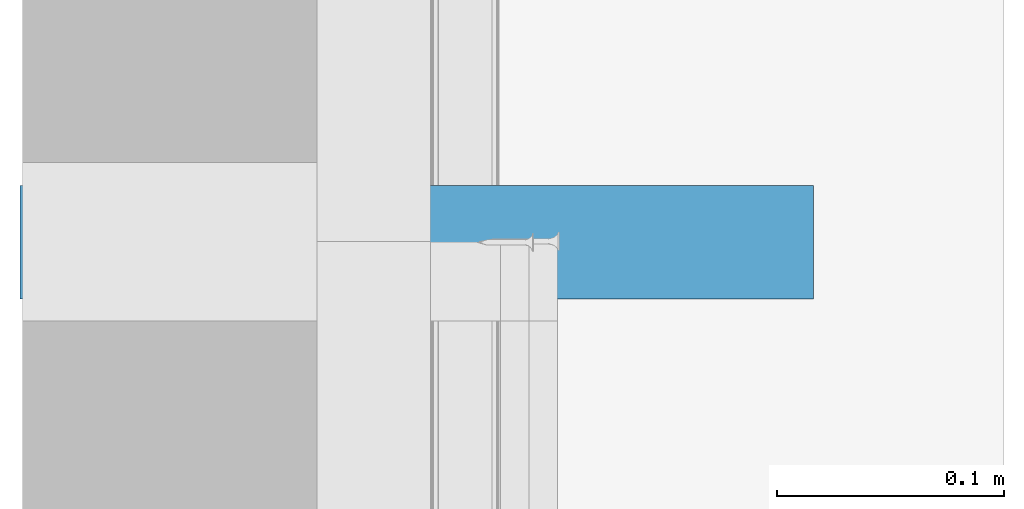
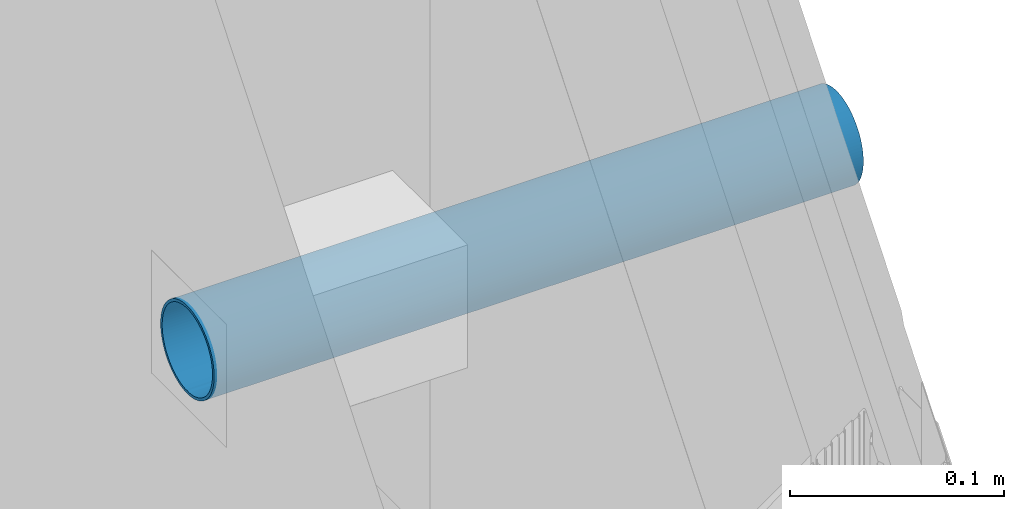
# One storey, part 10 of 61: 1 wall.
"""IFC2X3 building model written with IfcOpenShell, lengths in millimetres."""

from ifc_helpers import new_model, si_unit, frame, origin_with_axes, place, context, subcontext, project, spatial, faceted_brep, material, type_object, element, save


model = new_model("IFC2X3")

# Units and contexts
model_context = context("Model", 3, world=origin_with_axes())
body_context = subcontext(model_context, "Body", "Model", "MODEL_VIEW")
ifc_project = project(units=[si_unit("LENGTHUNIT", "METRE", prefix="MILLI"), si_unit("AREAUNIT", "SQUARE_METRE"), si_unit("VOLUMEUNIT", "CUBIC_METRE")], contexts=[model_context])

# Site, building, storey
site_placement = place(None, frame((2152.1410261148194, -2015.0250894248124, 57.61556563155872), z_axis=(0.0, 0.0, 1.0), x_axis=(-1.1102230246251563e-16, 1.0, 0.0)))
site = spatial("IfcSite", under=ifc_project, at=site_placement, Name="Default Site", CompositionType="ELEMENT")
building_placement = place(site_placement, origin_with_axes())
building = spatial("IfcBuilding", under=site, at=building_placement, Name="Default Building", CompositionType="ELEMENT")
storey_placement = place(building_placement, origin_with_axes())
storey = spatial("IfcBuildingStorey", under=building, at=storey_placement, Name="Default Building Storey", CompositionType="ELEMENT", Elevation=57.61556563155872)

# Wall
ifc_material = material(Name="M00_Soft_Cloud")
wall_type = type_object("IfcWallType", Name="Przewód instalacyjny - okrągły", PredefinedType="NOTDEFINED")
wall_placement = place(storey_placement, frame((3087.882749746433, 2148.2191285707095, 509.2191490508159), z_axis=(0.0, 0.0, 1.0), x_axis=(1.0, 0.0, 0.0)))
element("IfcWall", 1, at=wall_placement, inside=storey, type_object=wall_type, material=ifc_material, Name="Przewód instalacyjny - okrągły", context=body_context, shape_type="Brep", body=[
    faceted_brep([(49.84632578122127, -345.0390512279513, 25.2052880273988), (51.416081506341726, -345.0390512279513, 25.05333141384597), (52.97965642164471, -345.0390512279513, 25.201057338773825), (54.530870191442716, -345.0390512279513, 25.446669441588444), (56.0636008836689, -345.0390512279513, 25.789198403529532), (57.571799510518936, -345.0390512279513, 26.227292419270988), (59.04951390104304, -345.0390512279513, 26.759222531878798), (60.490912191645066, -345.0390512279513, 27.382889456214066), (61.89030584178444, -345.0390512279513, 28.09583186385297), (63.242172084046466, -345.0390512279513, 28.89523609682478), (64.54117571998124, -345.0390512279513, 29.777947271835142), (65.7821901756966, -345.0390512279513, 30.74048173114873), (66.96031773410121, -345.0390512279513, 31.779040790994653), (68.0709088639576, -345.0390512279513, 32.889525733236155), (69.1095805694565, -345.0390512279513, 34.0675539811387), (70.07223368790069, -345.0390512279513, 35.30847639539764), (70.95506906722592, -345.0390512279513, 36.607395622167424), (71.7546025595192, -345.0390512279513, 37.95918542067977), (72.46767877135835, -345.0390512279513, 39.358510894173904), (73.0914835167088, -345.0390512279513, 40.799849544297), (73.62355492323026, -345.0390512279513, 42.277513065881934), (74.0617931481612, -345.0390512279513, 43.78566979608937), (74.40446866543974, -345.0390512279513, 45.31836772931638), (74.65022909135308, -345.0390512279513, 46.86955800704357), (74.79810452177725, -345.0390512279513, 48.433118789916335), (74.847511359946, -345.0390512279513, 50.002879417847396), (74.79825461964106, -345.0390512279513, 51.57264476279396), (74.65052869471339, -345.0390512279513, 53.136219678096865), (74.40491659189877, -345.0390512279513, 54.687433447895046), (74.0623876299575, -345.0390512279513, 56.22016414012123), (73.62429361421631, -345.0390512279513, 57.72836276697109), (73.0923635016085, -345.0390512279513, 59.20607715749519), (72.46869657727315, -345.0390512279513, 60.64747544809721), (71.75575416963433, -345.0390512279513, 62.04686909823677), (70.95634993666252, -345.0390512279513, 63.398735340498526), (70.07363876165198, -345.0390512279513, 64.69773897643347), (69.11110430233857, -345.0390512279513, 65.93875343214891), (68.07254524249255, -345.0390512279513, 67.11688099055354), (66.96206030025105, -345.0390512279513, 68.22747212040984), (65.78403205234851, -345.0390512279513, 69.26614382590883), (64.54310963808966, -345.0390512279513, 70.22879694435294), (63.24419041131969, -345.0390512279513, 71.11163232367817), (61.892400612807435, -345.0390512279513, 71.91116581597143), (60.493075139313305, -345.0390512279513, 72.62424202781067), (59.05173648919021, -345.0390512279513, 73.2480467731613), (57.574072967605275, -345.0390512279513, 73.78011817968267), (56.06591623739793, -345.0390512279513, 74.21835640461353), (54.533218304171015, -345.0390512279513, 74.56103192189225), (52.982028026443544, -345.0390512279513, 74.80679234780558), (51.41846724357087, -345.0390512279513, 74.95466777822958), (49.84870661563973, -345.0390512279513, 75.00407461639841), (48.27894127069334, -345.0390512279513, 74.95481787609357), (46.71536635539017, -345.0390512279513, 74.8070919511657), (45.16415258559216, -345.0390512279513, 74.56147984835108), (43.63142189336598, -345.0390512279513, 74.2189508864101), (42.12322326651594, -345.0390512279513, 73.78085687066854), (40.64550887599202, -345.0390512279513, 73.24892675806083), (39.20411058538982, -345.0390512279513, 72.62525983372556), (37.80471693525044, -345.0390512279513, 71.91231742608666), (36.45285069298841, -345.0390512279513, 71.11291319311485), (35.153847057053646, -345.0390512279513, 70.23020201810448), (33.91283260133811, -345.0390512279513, 69.26766755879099), (32.734705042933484, -345.0390512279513, 68.22910849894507), (31.62411391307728, -345.0390512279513, 67.11862355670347), (30.58544220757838, -345.0390512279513, 65.94059530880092), (29.622789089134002, -345.0390512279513, 64.69967289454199), (28.739953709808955, -345.0390512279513, 63.4007536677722), (27.940420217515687, -345.0390512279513, 62.04896386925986), (27.227344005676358, -345.0390512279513, 60.64963839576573), (26.603539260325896, -345.0390512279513, 59.208299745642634), (26.071467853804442, -345.0390512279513, 57.73063622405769), (25.633229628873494, -345.0390512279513, 56.22247949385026), (25.290554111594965, -345.0390512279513, 54.68978156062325), (25.044793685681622, -345.0390512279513, 53.13859128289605), (24.896918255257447, -345.0390512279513, 51.575030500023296), (24.84751141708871, -345.0390512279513, 50.00526987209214), (24.896768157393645, -345.0390512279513, 48.43550452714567), (25.044494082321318, -345.0390512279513, 46.871929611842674), (25.290106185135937, -345.0390512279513, 45.32071584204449), (25.632635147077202, -345.0390512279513, 43.78798514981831), (26.07072916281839, -345.0390512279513, 42.27978652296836), (26.6026592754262, -345.0390512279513, 40.802072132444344), (27.22632619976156, -345.0390512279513, 39.360673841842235), (27.93926860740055, -345.0390512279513, 37.96128019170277), (28.738672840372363, -345.0390512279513, 36.60941394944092), (29.621384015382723, -345.0390512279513, 35.310410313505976), (30.58391847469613, -345.0390512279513, 34.069395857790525), (31.622477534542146, -345.0390512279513, 32.89126829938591), (32.73296247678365, -345.0390512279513, 31.780677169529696), (33.910990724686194, -345.0390512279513, 30.742005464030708), (35.15191313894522, -345.0390512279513, 29.77935234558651), (36.45083236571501, -345.0390512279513, 28.89651696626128), (37.802622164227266, -345.0390512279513, 28.096983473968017), (39.201947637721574, -345.0390512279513, 27.383907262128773), (40.64328628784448, -345.0390512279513, 26.760102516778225), (42.120949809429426, -345.0390512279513, 26.22803111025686), (43.62910653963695, -345.0390512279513, 25.789792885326), (45.161804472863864, -345.0390512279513, 25.44711736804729), (46.71299475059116, -345.0390512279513, 25.201356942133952), (48.27655553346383, -345.0390512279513, 25.053481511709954), (48.274965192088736, -345.0390512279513, 26.56032545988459), (46.90115859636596, -345.0390512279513, 26.69025468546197), (45.44308568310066, -345.0390512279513, 26.921262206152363), (44.002395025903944, -345.0390512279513, 27.243367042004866), (42.58477237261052, -345.0390512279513, 27.655297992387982), (41.19581243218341, -345.0390512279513, 28.155429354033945), (39.8409967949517, -345.0390512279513, 28.74178733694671), (38.52567229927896, -345.0390512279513, 29.412057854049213), (37.255029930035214, -345.0390512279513, 30.16359565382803), (36.034084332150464, -345.0390512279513, 30.993434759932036), (34.86765402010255, -345.0390512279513, 31.89830017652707), (33.76034236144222, -345.0390512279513, 32.87462081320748), (32.716519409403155, -345.0390512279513, 33.91854357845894), (31.740304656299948, -345.0390512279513, 35.02594858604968), (30.835550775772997, -345.0390512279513, 36.19246541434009), (30.00582841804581, -345.0390512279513, 37.413490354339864), (29.254412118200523, -345.0390512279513, 38.68420457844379), (28.584267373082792, -345.0390512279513, 39.999593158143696), (27.998038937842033, -345.0390512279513, 41.35446485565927), (27.498040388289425, -345.0390512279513, 42.7434726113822), (27.086244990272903, -345.0390512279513, 44.16113464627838), (26.76427791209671, -345.0390512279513, 45.6018560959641), (26.53340981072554, -345.0390512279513, 47.05995109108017), (26.39455181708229, -345.0390512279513, 48.52966519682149), (26.348251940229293, -345.0390512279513, 50.005198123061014), (26.394692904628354, -345.0390512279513, 51.480726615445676), (26.533691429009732, -345.0390512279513, 52.95042743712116), (26.764698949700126, -345.0390512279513, 54.40850035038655), (27.08680378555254, -345.0390512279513, 55.84919100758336), (27.498734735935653, -345.0390512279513, 57.266813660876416), (27.99886609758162, -345.0390512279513, 58.65577360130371), (28.58522408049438, -345.0390512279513, 60.01058923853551), (29.255494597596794, -345.0390512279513, 61.32591373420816), (30.007032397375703, -345.0390512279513, 62.59655610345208), (30.83687150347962, -345.0390512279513, 63.81750170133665), (31.741736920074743, -345.0390512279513, 64.98393201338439), (32.71805755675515, -345.0390512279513, 66.0912436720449), (33.76198032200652, -345.0390512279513, 67.13506662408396), (34.86938532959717, -345.0390512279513, 68.11128137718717), (36.035902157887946, -345.0390512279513, 69.01603525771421), (37.256927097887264, -345.0390512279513, 69.84575761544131), (38.52764132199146, -345.0390512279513, 70.59717391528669), (39.84302990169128, -345.0390512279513, 71.26731866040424), (41.19790159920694, -345.0390512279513, 71.85354709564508), (42.586909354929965, -345.0390512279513, 72.3535456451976), (44.00457138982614, -345.0390512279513, 72.7653410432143), (45.44529283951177, -345.0390512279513, 73.08730812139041), (46.90338783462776, -345.0390512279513, 73.3181762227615), (48.37310194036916, -345.0390512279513, 73.45703421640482), (49.8486348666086, -345.0390512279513, 73.50333409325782), (51.324163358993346, -345.0390512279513, 73.45689312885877), (52.79386418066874, -345.0390512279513, 73.31789460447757), (54.25193709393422, -345.0390512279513, 73.08688708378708), (55.692627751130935, -345.0390512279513, 72.76478224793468), (57.110250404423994, -345.0390512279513, 72.35285129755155), (58.49921034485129, -345.0390512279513, 71.8527199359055), (59.85402598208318, -345.0390512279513, 71.26636195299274), (61.16935047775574, -345.0390512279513, 70.59609143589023), (62.43999284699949, -345.0390512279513, 69.84455363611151), (63.660938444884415, -345.0390512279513, 69.01471453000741), (64.82736875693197, -345.0390512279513, 68.10984911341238), (65.93468041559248, -345.0390512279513, 67.13352847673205), (66.97850336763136, -345.0390512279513, 66.0896057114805), (67.95471812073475, -345.0390512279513, 64.98220070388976), (68.85947200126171, -345.0390512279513, 63.81568387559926), (69.68919435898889, -345.0390512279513, 62.59465893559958), (70.44061065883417, -345.0390512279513, 61.32394471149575), (71.11075540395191, -345.0390512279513, 60.00855613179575), (71.69698383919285, -345.0390512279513, 58.653684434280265), (72.19698238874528, -345.0390512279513, 57.26467667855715), (72.60877778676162, -345.0390512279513, 55.84701464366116), (72.93074486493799, -345.0390512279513, 54.406293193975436), (73.16161296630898, -345.0390512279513, 52.948198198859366), (73.3004709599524, -345.0390512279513, 51.47848409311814), (73.3467708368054, -345.0390512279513, 50.00295116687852), (73.30032987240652, -345.0390512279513, 48.52742267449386), (73.16133134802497, -345.0390512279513, 47.05772185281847), (72.93032382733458, -345.0390512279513, 45.59964893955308), (72.60821899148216, -345.0390512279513, 44.158958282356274), (72.19628804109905, -345.0390512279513, 42.741335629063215), (71.69615667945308, -345.0390512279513, 41.35237568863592), (71.1097986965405, -345.0390512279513, 39.99756005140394), (70.4395281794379, -345.0390512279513, 38.68223555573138), (69.68799037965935, -345.0390512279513, 37.411593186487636), (68.85815127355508, -345.0390512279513, 36.19064758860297), (67.95328585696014, -345.0390512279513, 35.02421727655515), (66.97696522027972, -345.0390512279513, 33.91690561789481), (65.93304245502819, -345.0390512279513, 32.87308266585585), (64.82563744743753, -345.0390512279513, 31.896867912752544), (63.65912061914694, -345.0390512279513, 30.992114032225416), (62.43809567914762, -345.0390512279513, 30.162391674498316), (61.16738145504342, -345.0390512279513, 29.410975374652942), (59.8519928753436, -345.0390512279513, 28.7408306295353), (58.49712117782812, -345.0390512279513, 28.15460219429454), (57.108113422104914, -345.0390512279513, 27.65460364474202), (55.690451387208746, -345.0390512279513, 27.242808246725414), (54.24972993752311, -345.0390512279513, 26.920841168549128), (52.791634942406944, -345.0390512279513, 26.689973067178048), (51.417815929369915, -345.0390512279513, 26.560175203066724), (49.846397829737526, -345.0390512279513, 26.712292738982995), (51.416081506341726, 4.921897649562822, 25.05333141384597), (49.84632578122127, 4.921897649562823, 25.2052880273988), (48.27655553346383, 4.921897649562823, 25.053481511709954), (46.71299475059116, 4.921897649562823, 25.201356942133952), (45.161804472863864, 4.9218976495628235, 25.44711736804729), (43.62910653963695, 4.9218976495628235, 25.789792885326), (42.120949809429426, 4.9218976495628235, 26.22803111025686), (40.64328628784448, 4.9218976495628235, 26.760102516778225), (39.201947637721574, 4.9218976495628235, 27.383907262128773), (37.802622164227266, 4.9218976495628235, 28.096983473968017), (36.45083236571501, 4.921897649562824, 28.89651696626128), (35.15191313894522, 4.921897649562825, 29.77935234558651), (33.910990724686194, 4.921897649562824, 30.742005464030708), (32.73296247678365, 4.921897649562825, 31.780677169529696), (31.622477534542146, 4.921897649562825, 32.89126829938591), (30.58391847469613, 4.921897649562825, 34.069395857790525), (29.621384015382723, 4.921897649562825, 35.310410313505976), (28.738672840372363, 4.921897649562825, 36.60941394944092), (27.93926860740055, 4.921897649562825, 37.96128019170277), (27.22632619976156, 4.921897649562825, 39.360673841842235), (26.6026592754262, 4.921897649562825, 40.802072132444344), (26.07072916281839, 4.921897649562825, 42.27978652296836), (25.632635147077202, 4.921897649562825, 43.78798514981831), (25.290106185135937, 4.921897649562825, 45.32071584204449), (25.044494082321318, 4.921897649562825, 46.871929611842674), (24.896768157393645, 4.921897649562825, 48.43550452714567), (24.84751141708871, 4.921897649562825, 50.00526987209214), (24.896918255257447, 4.921897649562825, 51.575030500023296), (25.044793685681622, 4.921897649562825, 53.13859128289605), (25.290554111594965, 4.921897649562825, 54.68978156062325), (25.633229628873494, 4.921897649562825, 56.22247949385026), (26.071467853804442, 4.921897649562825, 57.73063622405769), (26.603539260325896, 4.921897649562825, 59.208299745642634), (27.227344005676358, 4.921897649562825, 60.64963839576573), (27.940420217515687, 4.921897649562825, 62.04896386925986), (28.739953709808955, 4.921897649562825, 63.4007536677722), (29.622789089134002, 4.921897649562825, 64.69967289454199), (30.58544220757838, 4.921897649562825, 65.94059530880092), (31.62411391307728, 4.921897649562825, 67.11862355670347), (32.734705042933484, 4.921897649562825, 68.22910849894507), (33.91283260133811, 4.921897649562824, 69.26766755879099), (35.153847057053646, 4.921897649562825, 70.23020201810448), (36.45285069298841, 4.921897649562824, 71.11291319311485), (37.80471693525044, 4.9218976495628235, 71.91231742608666), (39.20411058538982, 4.9218976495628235, 72.62525983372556), (40.64550887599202, 4.9218976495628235, 73.24892675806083), (42.12322326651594, 4.9218976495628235, 73.78085687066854), (43.63142189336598, 4.9218976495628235, 74.2189508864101), (45.16415258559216, 4.9218976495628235, 74.56147984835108), (46.71536635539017, 4.921897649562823, 74.8070919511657), (48.27894127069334, 4.921897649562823, 74.95481787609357), (49.84870661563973, 4.921897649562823, 75.00407461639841), (51.41846724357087, 4.921897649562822, 74.95466777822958), (52.982028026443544, 4.921897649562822, 74.80679234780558), (54.533218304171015, 4.921897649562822, 74.56103192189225), (56.06591623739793, 4.921897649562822, 74.21835640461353), (57.574072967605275, 4.921897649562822, 73.78011817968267), (59.05173648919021, 4.921897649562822, 73.2480467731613), (60.493075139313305, 4.921897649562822, 72.62424202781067), (61.892400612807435, 4.921897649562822, 71.91116581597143), (63.24419041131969, 4.921897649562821, 71.11163232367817), (64.54310963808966, 4.921897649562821, 70.22879694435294), (65.78403205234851, 4.921897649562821, 69.26614382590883), (66.96206030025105, 4.921897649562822, 68.22747212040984), (68.07254524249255, 4.921897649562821, 67.11688099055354), (69.11110430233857, 4.921897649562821, 65.93875343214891), (70.07363876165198, 4.921897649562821, 64.69773897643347), (70.95634993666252, 4.92189764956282, 63.398735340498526), (71.75575416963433, 4.92189764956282, 62.04686909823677), (72.46869657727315, 4.92189764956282, 60.64747544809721), (73.0923635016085, 4.921897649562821, 59.20607715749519), (73.62429361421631, 4.92189764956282, 57.72836276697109), (74.0623876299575, 4.92189764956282, 56.22016414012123), (74.40491659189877, 4.92189764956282, 54.687433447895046), (74.65052869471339, 4.92189764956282, 53.136219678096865), (74.79825461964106, 4.92189764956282, 51.57264476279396), (74.847511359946, 4.92189764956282, 50.002879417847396), (74.79810452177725, 4.92189764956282, 48.433118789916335), (74.65022909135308, 4.92189764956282, 46.86955800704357), (74.40446866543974, 4.92189764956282, 45.31836772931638), (74.0617931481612, 4.92189764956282, 43.78566979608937), (73.62355492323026, 4.92189764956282, 42.277513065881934), (73.0914835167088, 4.921897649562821, 40.799849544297), (72.46767877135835, 4.92189764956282, 39.358510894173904), (71.7546025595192, 4.92189764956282, 37.95918542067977), (70.95506906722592, 4.92189764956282, 36.607395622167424), (70.07223368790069, 4.921897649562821, 35.30847639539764), (69.1095805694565, 4.921897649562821, 34.0675539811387), (68.0709088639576, 4.921897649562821, 32.889525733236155), (66.96031773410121, 4.921897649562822, 31.779040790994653), (65.7821901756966, 4.921897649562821, 30.74048173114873), (64.54117571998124, 4.921897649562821, 29.777947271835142), (63.242172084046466, 4.921897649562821, 28.89523609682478), (61.89030584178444, 4.921897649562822, 28.09583186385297), (60.490912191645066, 4.921897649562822, 27.382889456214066), (59.04951390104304, 4.921897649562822, 26.759222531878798), (57.571799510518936, 4.921897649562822, 26.227292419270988), (56.0636008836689, 4.921897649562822, 25.789198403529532), (54.530870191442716, 4.921897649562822, 25.446669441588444), (52.97965642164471, 4.921897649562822, 25.201057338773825), (46.90115859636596, 4.921897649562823, 26.69025468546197), (48.274965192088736, 4.921897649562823, 26.56032545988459), (49.846397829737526, 4.921897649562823, 26.712292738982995), (51.417815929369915, 4.921897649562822, 26.560175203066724), (52.791634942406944, 4.921897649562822, 26.689973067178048), (54.24972993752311, 4.921897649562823, 26.920841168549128), (55.690451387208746, 4.921897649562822, 27.242808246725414), (57.108113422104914, 4.921897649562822, 27.65460364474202), (58.49712117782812, 4.921897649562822, 28.15460219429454), (59.8519928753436, 4.921897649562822, 28.7408306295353), (61.16738145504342, 4.921897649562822, 29.410975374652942), (62.43809567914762, 4.921897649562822, 30.162391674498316), (63.65912061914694, 4.921897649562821, 30.992114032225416), (64.82563744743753, 4.921897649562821, 31.896867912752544), (65.93304245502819, 4.921897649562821, 32.87308266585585), (66.97696522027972, 4.921897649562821, 33.91690561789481), (67.95328585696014, 4.921897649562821, 35.02421727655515), (68.85815127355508, 4.921897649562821, 36.19064758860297), (69.68799037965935, 4.921897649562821, 37.411593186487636), (70.4395281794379, 4.921897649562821, 38.68223555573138), (71.1097986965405, 4.92189764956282, 39.99756005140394), (71.69615667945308, 4.92189764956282, 41.35237568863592), (72.19628804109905, 4.92189764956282, 42.741335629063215), (72.60821899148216, 4.92189764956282, 44.158958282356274), (72.93032382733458, 4.92189764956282, 45.59964893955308), (73.16133134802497, 4.921897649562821, 47.05772185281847), (73.30032987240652, 4.921897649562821, 48.52742267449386), (73.3467708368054, 4.92189764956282, 50.00295116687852), (73.3004709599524, 4.921897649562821, 51.47848409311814), (73.16161296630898, 4.921897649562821, 52.948198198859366), (72.93074486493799, 4.92189764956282, 54.406293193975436), (72.60877778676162, 4.92189764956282, 55.84701464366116), (72.19698238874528, 4.92189764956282, 57.26467667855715), (71.69698383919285, 4.92189764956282, 58.653684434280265), (71.11075540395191, 4.92189764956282, 60.00855613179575), (70.44061065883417, 4.921897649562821, 61.32394471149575), (69.68919435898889, 4.921897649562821, 62.59465893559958), (68.85947200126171, 4.921897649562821, 63.81568387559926), (67.95471812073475, 4.921897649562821, 64.98220070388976), (66.97850336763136, 4.921897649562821, 66.0896057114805), (65.93468041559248, 4.921897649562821, 67.13352847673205), (64.82736875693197, 4.921897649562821, 68.10984911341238), (63.660938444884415, 4.921897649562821, 69.01471453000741), (62.43999284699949, 4.921897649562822, 69.84455363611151), (61.16935047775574, 4.921897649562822, 70.59609143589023), (59.85402598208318, 4.921897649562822, 71.26636195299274), (58.49921034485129, 4.921897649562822, 71.8527199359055), (57.110250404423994, 4.921897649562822, 72.35285129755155), (55.692627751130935, 4.921897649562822, 72.76478224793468), (54.25193709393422, 4.921897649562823, 73.08688708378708), (52.79386418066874, 4.921897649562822, 73.31789460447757), (51.324163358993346, 4.921897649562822, 73.45689312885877), (49.8486348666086, 4.921897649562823, 73.50333409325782), (48.37310194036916, 4.921897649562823, 73.45703421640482), (46.90338783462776, 4.921897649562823, 73.3181762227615), (45.44529283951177, 4.9218976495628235, 73.08730812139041), (44.00457138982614, 4.9218976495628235, 72.7653410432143), (42.586909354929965, 4.9218976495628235, 72.3535456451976), (41.19790159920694, 4.9218976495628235, 71.85354709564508), (39.84302990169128, 4.9218976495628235, 71.26731866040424), (38.52764132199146, 4.9218976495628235, 70.59717391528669), (37.256927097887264, 4.921897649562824, 69.84575761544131), (36.035902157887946, 4.921897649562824, 69.01603525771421), (34.86938532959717, 4.921897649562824, 68.11128137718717), (33.76198032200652, 4.921897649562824, 67.13506662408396), (32.71805755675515, 4.921897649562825, 66.0912436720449), (31.741736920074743, 4.921897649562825, 64.98393201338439), (30.83687150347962, 4.921897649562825, 63.81750170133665), (30.007032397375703, 4.921897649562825, 62.59655610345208), (29.255494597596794, 4.921897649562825, 61.32591373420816), (28.58522408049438, 4.921897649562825, 60.01058923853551), (27.99886609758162, 4.921897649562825, 58.65577360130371), (27.498734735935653, 4.921897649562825, 57.266813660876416), (27.08680378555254, 4.921897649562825, 55.84919100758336), (26.764698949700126, 4.921897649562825, 54.40850035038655), (26.533691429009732, 4.921897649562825, 52.95042743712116), (26.394692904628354, 4.921897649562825, 51.480726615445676), (26.348251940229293, 4.921897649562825, 50.005198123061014), (26.39455181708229, 4.921897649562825, 48.52966519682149), (26.53340981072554, 4.921897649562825, 47.05995109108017), (26.76427791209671, 4.921897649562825, 45.6018560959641), (27.086244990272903, 4.921897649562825, 44.16113464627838), (27.498040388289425, 4.921897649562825, 42.7434726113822), (27.998038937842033, 4.921897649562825, 41.35446485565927), (28.584267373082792, 4.921897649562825, 39.999593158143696), (29.254412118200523, 4.921897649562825, 38.68420457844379), (30.00582841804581, 4.921897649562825, 37.413490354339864), (30.835550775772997, 4.921897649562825, 36.19246541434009), (31.740304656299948, 4.921897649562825, 35.02594858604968), (32.716519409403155, 4.921897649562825, 33.91854357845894), (33.76034236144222, 4.921897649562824, 32.87462081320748), (34.86765402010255, 4.921897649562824, 31.89830017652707), (36.034084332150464, 4.921897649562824, 30.993434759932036), (37.255029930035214, 4.921897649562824, 30.16359565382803), (38.52567229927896, 4.9218976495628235, 29.412057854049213), (39.8409967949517, 4.9218976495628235, 28.74178733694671), (41.19581243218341, 4.9218976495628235, 28.155429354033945), (42.58477237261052, 4.9218976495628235, 27.655297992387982), (44.002395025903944, 4.9218976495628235, 27.243367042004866), (45.44308568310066, 4.9218976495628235, 26.921262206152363)], [[[0, 1, 2, 3, 4, 5, 6, 7, 8, 9, 10, 11, 12, 13, 14, 15, 16, 17, 18, 19, 20, 21, 22, 23, 24, 25, 26, 27, 28, 29, 30, 31, 32, 33, 34, 35, 36, 37, 38, 39, 40, 41, 42, 43, 44, 45, 46, 47, 48, 49, 50, 51, 52, 53, 54, 55, 56, 57, 58, 59, 60, 61, 62, 63, 64, 65, 66, 67, 68, 69, 70, 71, 72, 73, 74, 75, 76, 77, 78, 79, 80, 81, 82, 83, 84, 85, 86, 87, 88, 89, 90, 91, 92, 93, 94, 95, 96, 97, 98, 99], [100, 101, 102, 103, 104, 105, 106, 107, 108, 109, 110, 111, 112, 113, 114, 115, 116, 117, 118, 119, 120, 121, 122, 123, 124, 125, 126, 127, 128, 129, 130, 131, 132, 133, 134, 135, 136, 137, 138, 139, 140, 141, 142, 143, 144, 145, 146, 147, 148, 149, 150, 151, 152, 153, 154, 155, 156, 157, 158, 159, 160, 161, 162, 163, 164, 165, 166, 167, 168, 169, 170, 171, 172, 173, 174, 175, 176, 177, 178, 179, 180, 181, 182, 183, 184, 185, 186, 187, 188, 189, 190, 191, 192, 193, 194, 195, 196, 197, 198, 199]], [[200, 201, 202, 203, 204, 205, 206, 207, 208, 209, 210, 211, 212, 213, 214, 215, 216, 217, 218, 219, 220, 221, 222, 223, 224, 225, 226, 227, 228, 229, 230, 231, 232, 233, 234, 235, 236, 237, 238, 239, 240, 241, 242, 243, 244, 245, 246, 247, 248, 249, 250, 251, 252, 253, 254, 255, 256, 257, 258, 259, 260, 261, 262, 263, 264, 265, 266, 267, 268, 269, 270, 271, 272, 273, 274, 275, 276, 277, 278, 279, 280, 281, 282, 283, 284, 285, 286, 287, 288, 289, 290, 291, 292, 293, 294, 295, 296, 297, 298, 299], [300, 301, 302, 303, 304, 305, 306, 307, 308, 309, 310, 311, 312, 313, 314, 315, 316, 317, 318, 319, 320, 321, 322, 323, 324, 325, 326, 327, 328, 329, 330, 331, 332, 333, 334, 335, 336, 337, 338, 339, 340, 341, 342, 343, 344, 345, 346, 347, 348, 349, 350, 351, 352, 353, 354, 355, 356, 357, 358, 359, 360, 361, 362, 363, 364, 365, 366, 367, 368, 369, 370, 371, 372, 373, 374, 375, 376, 377, 378, 379, 380, 381, 382, 383, 384, 385, 386, 387, 388, 389, 390, 391, 392, 393, 394, 395, 396, 397, 398, 399]], [[1, 0, 201, 200]], [[2, 1, 200, 299]], [[3, 2, 299, 298]], [[4, 3, 298, 297]], [[5, 4, 297, 296]], [[6, 5, 296, 295]], [[7, 6, 295, 294]], [[8, 7, 294, 293]], [[9, 8, 293, 292]], [[10, 9, 292, 291]], [[11, 10, 291, 290]], [[12, 11, 290, 289]], [[13, 12, 289, 288]], [[14, 13, 288, 287]], [[15, 14, 287, 286]], [[16, 15, 286, 285]], [[17, 16, 285, 284]], [[18, 17, 284, 283]], [[19, 18, 283, 282]], [[20, 19, 282, 281]], [[21, 20, 281, 280]], [[22, 21, 280, 279]], [[23, 22, 279, 278]], [[24, 23, 278, 277]], [[25, 24, 277, 276]], [[26, 25, 276, 275]], [[27, 26, 275, 274]], [[28, 27, 274, 273]], [[29, 28, 273, 272]], [[30, 29, 272, 271]], [[31, 30, 271, 270]], [[32, 31, 270, 269]], [[33, 32, 269, 268]], [[34, 33, 268, 267]], [[35, 34, 267, 266]], [[36, 35, 266, 265]], [[37, 36, 265, 264]], [[38, 37, 264, 263]], [[39, 38, 263, 262]], [[40, 39, 262, 261]], [[41, 40, 261, 260]], [[42, 41, 260, 259]], [[43, 42, 259, 258]], [[44, 43, 258, 257]], [[45, 44, 257, 256]], [[46, 45, 256, 255]], [[47, 46, 255, 254]], [[48, 47, 254, 253]], [[49, 48, 253, 252]], [[50, 49, 252, 251]], [[51, 50, 251, 250]], [[52, 51, 250, 249]], [[53, 52, 249, 248]], [[54, 53, 248, 247]], [[55, 54, 247, 246]], [[56, 55, 246, 245]], [[57, 56, 245, 244]], [[58, 57, 244, 243]], [[59, 58, 243, 242]], [[60, 59, 242, 241]], [[61, 60, 241, 240]], [[62, 61, 240, 239]], [[63, 62, 239, 238]], [[64, 63, 238, 237]], [[65, 64, 237, 236]], [[66, 65, 236, 235]], [[67, 66, 235, 234]], [[68, 67, 234, 233]], [[69, 68, 233, 232]], [[70, 69, 232, 231]], [[71, 70, 231, 230]], [[72, 71, 230, 229]], [[73, 72, 229, 228]], [[74, 73, 228, 227]], [[75, 74, 227, 226]], [[76, 75, 226, 225]], [[77, 76, 225, 224]], [[78, 77, 224, 223]], [[79, 78, 223, 222]], [[80, 79, 222, 221]], [[81, 80, 221, 220]], [[82, 81, 220, 219]], [[83, 82, 219, 218]], [[84, 83, 218, 217]], [[85, 84, 217, 216]], [[86, 85, 216, 215]], [[87, 86, 215, 214]], [[88, 87, 214, 213]], [[89, 88, 213, 212]], [[90, 89, 212, 211]], [[91, 90, 211, 210]], [[92, 91, 210, 209]], [[93, 92, 209, 208]], [[94, 93, 208, 207]], [[95, 94, 207, 206]], [[96, 95, 206, 205]], [[97, 96, 205, 204]], [[98, 97, 204, 203]], [[99, 98, 203, 202]], [[0, 99, 202, 201]], [[101, 100, 301, 300]], [[102, 101, 300, 399]], [[103, 102, 399, 398]], [[104, 103, 398, 397]], [[105, 104, 397, 396]], [[106, 105, 396, 395]], [[107, 106, 395, 394]], [[108, 107, 394, 393]], [[109, 108, 393, 392]], [[110, 109, 392, 391]], [[111, 110, 391, 390]], [[112, 111, 390, 389]], [[113, 112, 389, 388]], [[114, 113, 388, 387]], [[115, 114, 387, 386]], [[116, 115, 386, 385]], [[117, 116, 385, 384]], [[118, 117, 384, 383]], [[119, 118, 383, 382]], [[120, 119, 382, 381]], [[121, 120, 381, 380]], [[122, 121, 380, 379]], [[123, 122, 379, 378]], [[124, 123, 378, 377]], [[125, 124, 377, 376]], [[126, 125, 376, 375]], [[127, 126, 375, 374]], [[128, 127, 374, 373]], [[129, 128, 373, 372]], [[130, 129, 372, 371]], [[131, 130, 371, 370]], [[132, 131, 370, 369]], [[133, 132, 369, 368]], [[134, 133, 368, 367]], [[135, 134, 367, 366]], [[136, 135, 366, 365]], [[137, 136, 365, 364]], [[138, 137, 364, 363]], [[139, 138, 363, 362]], [[140, 139, 362, 361]], [[141, 140, 361, 360]], [[142, 141, 360, 359]], [[143, 142, 359, 358]], [[144, 143, 358, 357]], [[145, 144, 357, 356]], [[146, 145, 356, 355]], [[147, 146, 355, 354]], [[148, 147, 354, 353]], [[149, 148, 353, 352]], [[150, 149, 352, 351]], [[151, 150, 351, 350]], [[152, 151, 350, 349]], [[153, 152, 349, 348]], [[154, 153, 348, 347]], [[155, 154, 347, 346]], [[156, 155, 346, 345]], [[157, 156, 345, 344]], [[158, 157, 344, 343]], [[159, 158, 343, 342]], [[160, 159, 342, 341]], [[161, 160, 341, 340]], [[162, 161, 340, 339]], [[163, 162, 339, 338]], [[164, 163, 338, 337]], [[165, 164, 337, 336]], [[166, 165, 336, 335]], [[167, 166, 335, 334]], [[168, 167, 334, 333]], [[169, 168, 333, 332]], [[170, 169, 332, 331]], [[171, 170, 331, 330]], [[172, 171, 330, 329]], [[173, 172, 329, 328]], [[174, 173, 328, 327]], [[175, 174, 327, 326]], [[176, 175, 326, 325]], [[177, 176, 325, 324]], [[178, 177, 324, 323]], [[179, 178, 323, 322]], [[180, 179, 322, 321]], [[181, 180, 321, 320]], [[182, 181, 320, 319]], [[183, 182, 319, 318]], [[184, 183, 318, 317]], [[185, 184, 317, 316]], [[186, 185, 316, 315]], [[187, 186, 315, 314]], [[188, 187, 314, 313]], [[189, 188, 313, 312]], [[190, 189, 312, 311]], [[191, 190, 311, 310]], [[192, 191, 310, 309]], [[193, 192, 309, 308]], [[194, 193, 308, 307]], [[195, 194, 307, 306]], [[196, 195, 306, 305]], [[197, 196, 305, 304]], [[198, 197, 304, 303]], [[199, 198, 303, 302]], [[100, 199, 302, 301]]]),
])

save(model, "model.ifc")
